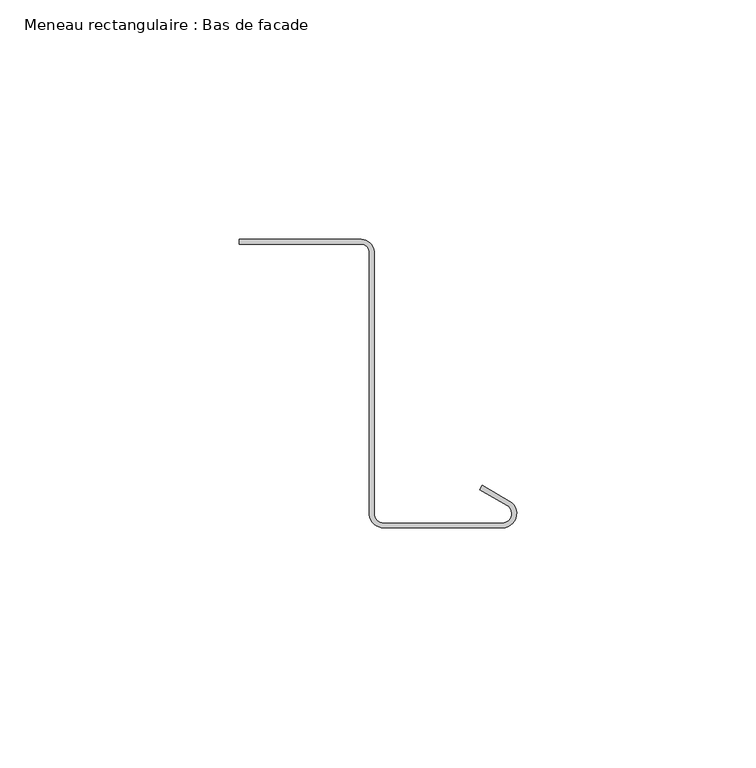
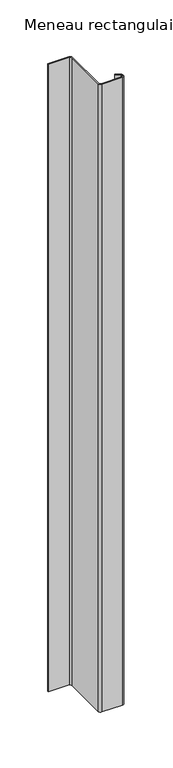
"""IFC4 building model written with IfcOpenShell, lengths in millimetres: member geometry, Meneau rectangulaire : Bas de facade."""

from ifc_helpers import new_model, si_unit, point, frame, frame_2d, origin, place, context, project, spatial, polyline, circle_curve, trimmed, segment, composite_curve, outline, extrude, source, transform, mapped, element, save


def meneau_rectangulaire_bas_de_facade_284a9909(model_context):
    return source(origin(), model_context, "Body", "SweptSolid", [
        extrude(outline(composite_curve([segment(trimmed(circle_curve(frame_2d((-32.4584179, 0.2088923)), 2.75), [point((-32.4584179, 2.9588923))], [point((-29.7143802, 0.3898824))], False, "CARTESIAN"), True, "CONTINUOUS"), segment(polyline([(-29.7143802, 0.3898824), (-29.7143802, -54.5495817)]), True, "CONTINUOUS"), segment(trimmed(circle_curve(frame_2d((-27.735368, -54.2605998)), 2.0), [point((-29.7143802, -54.5495817))], [point((-27.735368, -56.2605998))], True, "CARTESIAN"), True, "CONTINUOUS"), segment(polyline([(-27.735368, -56.2605998), (-3.0, -56.2605998)]), True, "CONTINUOUS"), segment(trimmed(circle_curve(frame_2d((-3.0, -54.2605998)), 2.0), [point((-3.0, -56.2605998))], [point((-2.0, -52.528549))], True, "CARTESIAN"), True, "CONTINUOUS"), segment(polyline([(-2.0, -52.528549), (-7.6638061, -49.258549), (-7.1638061, -48.3925235), (-1.5, -51.6625235)]), True, "CONTINUOUS"), segment(trimmed(circle_curve(frame_2d((-3.0, -54.2605998)), 3.0), [point((-1.5, -51.6625235))], [point((-3.0, -57.2605998))], False, "CARTESIAN"), True, "CONTINUOUS"), segment(polyline([(-3.0, -57.2605998), (-27.735368, -57.2605998)]), True, "CONTINUOUS"), segment(trimmed(circle_curve(frame_2d((-27.735368, -54.2605998)), 3.0), [point((-27.735368, -57.2605998))], [point((-30.7239521, -54.522067))], False, "CARTESIAN"), True, "CONTINUOUS"), segment(polyline([(-30.7239521, -54.522067), (-30.7239521, 0.4415475)]), True, "CONTINUOUS"), segment(trimmed(circle_curve(frame_2d((-32.4584179, 0.2088923)), 1.75), [point((-30.7239521, 0.4415475))], [point((-32.4584179, 1.9588923))], True, "CARTESIAN"), True, "CONTINUOUS"), segment(polyline([(-32.4584179, 1.9588923), (-57.8548383, 1.9588923), (-57.8548383, 2.9588923), (-32.4584179, 2.9588923)]), True, "CONTINUOUS")], self_intersect=False)), frame((0.0, 0.0, -800.0), z_axis=(0.0, 0.0, 1.0), x_axis=(1.0, 0.0, 0.0)), (0.0, 0.0, 1.0), 800.0),
    ])


if __name__ == "__main__":
    model = new_model("IFC4")
    model_context = context("Model", 3, world=origin())
    ifc_project = project(units=[si_unit("LENGTHUNIT", "METRE", prefix="MILLI")], contexts=[model_context])
    site = spatial("IfcSite", under=ifc_project)
    building = spatial("IfcBuilding", under=site)
    placement = place(None, origin())
    meneau_rectangulaire_bas_de_facade_shape = meneau_rectangulaire_bas_de_facade_284a9909(model_context)
    element("IfcMember", 1, ObjectType="Meneau rectangulaire : Bas de facade", at=placement, inside=building, context=model_context, shape_type="MappedRepresentation", body=[
        mapped(meneau_rectangulaire_bas_de_facade_shape, transform((0.0, 0.0, 0.0), x_axis=(1.0, 0.0, 0.0), y_axis=(0.0, 1.0, 0.0), z_axis=(0.0, 0.0, 1.0))),
    ])
    save(model, "model.ifc")
